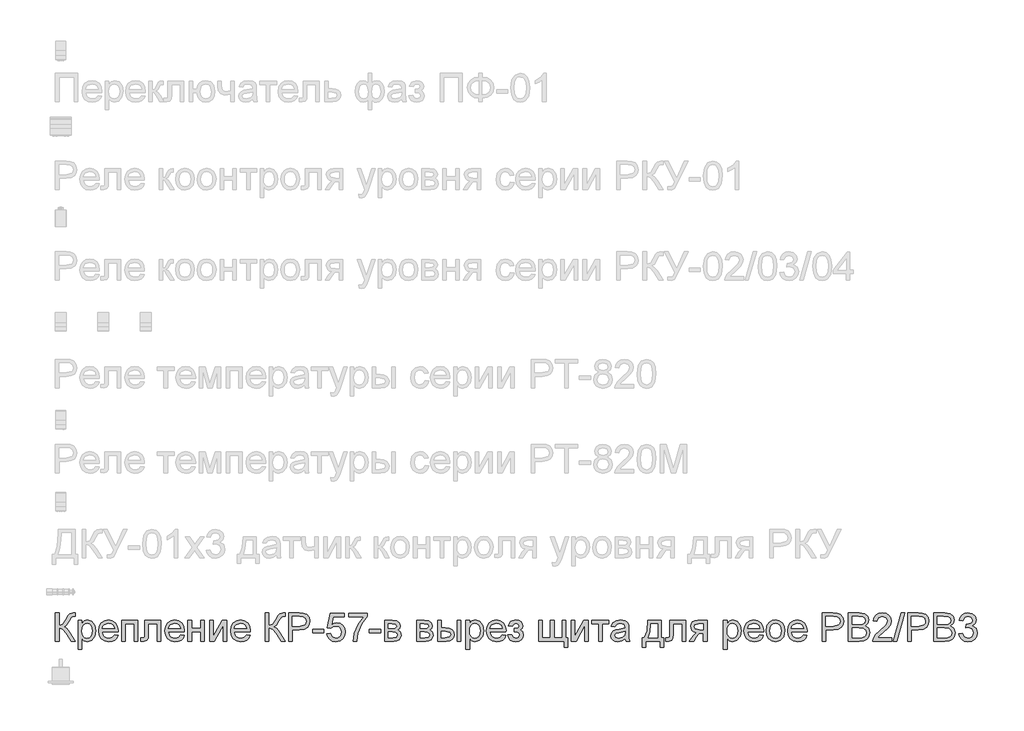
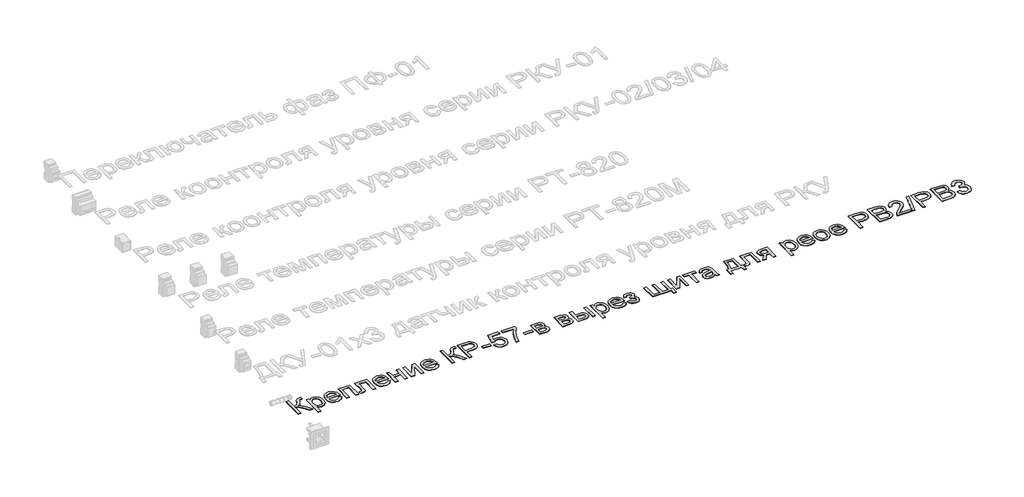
# One storey, part 3 of 34: 1 proxy.
"""IFC4 building model written with IfcOpenShell, lengths in millimetres."""

from ifc_helpers import new_model, si_unit, frame, origin, place, context, project, spatial, polyline, outline, extrude, element, save

model = new_model("IFC4")

# Units and contexts
model_context = context("Model", 3, world=origin())
ifc_project = project(units=[si_unit("LENGTHUNIT", "METRE", prefix="MILLI")], contexts=[model_context])

# Site, building, storey
site = spatial("IfcSite", under=ifc_project)
building = spatial("IfcBuilding", under=site)
storey = spatial("IfcBuildingStorey", under=building, Name="Этаж 01", Elevation=0.0)

# Proxy
placement = place(None, origin())
element("IfcBuildingElementProxy", 1, Name="Надпись на модели 1", ObjectType="Надпись на модели 1", at=placement, inside=storey, context=model_context, shape_type="SweptSolid", body=[
    extrude(outline(polyline([(-19039.0125911, 7591.6915941), (-19026.4555523, 7591.6915941), (-19026.4555523, 7547.7419585), (-19012.4147228, 7551.0651591), (-19002.616799, 7567.8773663), (-18995.6883548, 7581.9181958), (-18987.8402055, 7588.8711655), (-18976.6198047, 7591.6915941), (-18968.379248, 7591.5444413), (-18968.379248, 7578.9874026), (-18971.1506257, 7579.060979), (-18973.9220034, 7579.1345554), (-18983.7321899, 7576.117923), (-18991.1879317, 7563.1930022), (-19000.0784133, 7547.4476529), (-19008.7481656, 7542.248254), (-18999.054475, 7536.5706085), (-18989.4956745, 7524.737071), (-18968.379248, 7491.235284), (-18982.947375, 7491.235284), (-19000.8019145, 7519.5376722), (-19013.371216, 7534.3142656), (-19026.4555523, 7538.3241794), (-19026.4555523, 7491.235284), (-19039.0125911, 7491.235284), (-19039.0125911, 7591.6915941)])), frame((0.0, 0.0, 40.0), z_axis=(0.0, 0.0, 1.0), x_axis=(1.0, 0.0, 0.0)), (0.0, 0.0, 1.0), 2.0),
    extrude(outline(polyline([(-18958.9614689, 7462.9819468), (-18958.9614689, 7565.0078868), (-18946.4044302, 7565.0078868), (-18946.4044302, 7552.6961027), (-18937.7224151, 7563.1071631), (-18925.9992422, 7566.5775166), (-18910.0822145, 7561.7214743), (-18899.6834168, 7548.036264), (-18896.1762751, 7528.6856711), (-18900.1371379, 7508.3417968), (-18911.6395816, 7494.4849083), (-18927.5198211, 7489.6656541), (-18938.4459163, 7492.890753), (-18946.4044302, 7501.0454705), (-18946.4044302, 7462.9819468), (-18958.9614689, 7462.9819468)]), holes=[polyline([(-18946.4044302, 7527.5329742), (-18945.0463325, 7516.2757851), (-18940.9720394, 7508.4031104), (-18934.9602344, 7503.7677973), (-18927.7896012, 7502.2226929), (-18920.502472, 7503.8229796), (-18914.3373829, 7508.6238396), (-18910.1343311, 7516.7846886), (-18908.7333139, 7528.4649419), (-18910.1006086, 7539.6608173), (-18914.2024928, 7547.6438566), (-18920.2051007, 7552.4263225), (-18927.2745664, 7554.0204778), (-18934.3716232, 7552.325155), (-18940.6041574, 7547.2391864), (-18944.954362, 7538.9219876), (-18946.4044302, 7527.5329742)])]), frame((0.0, 0.0, 40.0), z_axis=(0.0, 0.0, 1.0), x_axis=(1.0, 0.0, 0.0)), (0.0, 0.0, 1.0), 2.0),
    extrude(outline(polyline([(-18830.3989743, 7513.2101018), (-18818.0871902, 7511.640472), (-18822.523234, 7502.3637143), (-18829.6018967, 7495.4291387), (-18839.1637629, 7491.1065253), (-18851.049417, 7489.6656541), (-18865.7830909, 7492.1519233), (-18877.1199877, 7499.6107308), (-18884.3488689, 7511.5576985), (-18886.758496, 7527.5084487), (-18884.3243435, 7543.9956935), (-18877.0218859, 7556.3258717), (-18865.8382732, 7564.0146054), (-18851.7606555, 7566.5775166), (-18838.1214306, 7564.0207367), (-18827.2229265, 7556.3503971), (-18820.0768187, 7544.0447444), (-18817.6947828, 7527.5820251), (-18817.7683592, 7524.1975108), (-18874.2014572, 7524.1975108), (-18872.0278878, 7514.7981258), (-18866.9787074, 7507.8880756), (-18859.6915782, 7503.6390386), (-18850.8041623, 7502.2226929), (-18838.4923782, 7504.8469178), (-18830.3989743, 7513.2101018)]), holes=[polyline([(-18874.2014572, 7536.7545495), (-18830.2518215, 7536.7545495), (-18835.2795421, 7548.1343659), (-18842.6003939, 7552.5489499), (-18851.8097065, 7554.0204778), (-18867.273013, 7549.323851), (-18872.1382524, 7543.8332123), (-18874.2014572, 7536.7545495)])]), frame((0.0, 0.0, 40.0), z_axis=(0.0, 0.0, 1.0), x_axis=(1.0, 0.0, 0.0)), (0.0, 0.0, 1.0), 2.0),
    extrude(outline(polyline([(-18805.137744, 7565.0078868), (-18748.6310696, 7565.0078868), (-18748.6310696, 7491.235284), (-18761.1881083, 7491.235284), (-18761.1881083, 7552.450848), (-18792.5807052, 7552.450848), (-18792.5807052, 7491.235284), (-18805.137744, 7491.235284), (-18805.137744, 7565.0078868)])), frame((0.0, 0.0, 40.0), z_axis=(0.0, 0.0, 1.0), x_axis=(1.0, 0.0, 0.0)), (0.0, 0.0, 1.0), 2.0),
    extrude(outline(polyline([(-18723.516992, 7565.0078868), (-18667.0103176, 7565.0078868), (-18667.0103176, 7491.3088604), (-18679.5673563, 7491.3088604), (-18679.5673563, 7552.450848), (-18710.9599532, 7552.450848), (-18710.9599532, 7517.2568038), (-18711.8060818, 7501.0209451), (-18716.4536577, 7494.1660772), (-18727.4410666, 7491.235284), (-18737.6436606, 7491.8729461), (-18737.6436606, 7503.7923228), (-18732.0273288, 7503.7923228), (-18726.3496834, 7504.564875), (-18724.0810777, 7507.0174216), (-18723.516992, 7517.9680423), (-18723.516992, 7565.0078868)])), frame((0.0, 0.0, 40.0), z_axis=(0.0, 0.0, 1.0), x_axis=(1.0, 0.0, 0.0)), (0.0, 0.0, 1.0), 2.0),
    extrude(outline(polyline([(-18596.5241273, 7513.2101018), (-18584.2123432, 7511.640472), (-18588.6483869, 7502.3637143), (-18595.7270496, 7495.4291387), (-18605.2889158, 7491.1065253), (-18617.1745699, 7489.6656541), (-18631.9082438, 7492.1519233), (-18643.2451407, 7499.6107308), (-18650.4740219, 7511.5576985), (-18652.8836489, 7527.5084487), (-18650.4494964, 7543.9956935), (-18643.1470388, 7556.3258717), (-18631.9634261, 7564.0146054), (-18617.8858085, 7566.5775166), (-18604.2465835, 7564.0207367), (-18593.3480794, 7556.3503971), (-18586.2019716, 7544.0447444), (-18583.8199357, 7527.5820251), (-18583.8935121, 7524.1975108), (-18640.3266102, 7524.1975108), (-18638.1530407, 7514.7981258), (-18633.1038603, 7507.8880756), (-18625.8167311, 7503.6390386), (-18616.9293153, 7502.2226929), (-18604.6175312, 7504.8469178), (-18596.5241273, 7513.2101018)]), holes=[polyline([(-18640.3266102, 7536.7545495), (-18596.3769745, 7536.7545495), (-18601.4046951, 7548.1343659), (-18608.7255468, 7552.5489499), (-18617.9348594, 7554.0204778), (-18633.3981659, 7549.323851), (-18638.2634053, 7543.8332123), (-18640.3266102, 7536.7545495)])]), frame((0.0, 0.0, 40.0), z_axis=(0.0, 0.0, 1.0), x_axis=(1.0, 0.0, 0.0)), (0.0, 0.0, 1.0), 2.0),
    extrude(outline(polyline([(-18571.2628969, 7565.0078868), (-18558.7058582, 7565.0078868), (-18558.7058582, 7536.7545495), (-18525.7436314, 7536.7545495), (-18525.7436314, 7565.0078868), (-18513.1865926, 7565.0078868), (-18513.1865926, 7491.235284), (-18525.7436314, 7491.235284), (-18525.7436314, 7524.1975108), (-18558.7058582, 7524.1975108), (-18558.7058582, 7491.235284), (-18571.2628969, 7491.235284), (-18571.2628969, 7565.0078868)])), frame((0.0, 0.0, 40.0), z_axis=(0.0, 0.0, 1.0), x_axis=(1.0, 0.0, 0.0)), (0.0, 0.0, 1.0), 2.0),
    extrude(outline(polyline([(-18494.3510345, 7565.0078868), (-18481.7939957, 7565.0078868), (-18481.7939957, 7508.746467), (-18450.9409591, 7565.0078868), (-18434.7051003, 7565.0078868), (-18434.7051003, 7491.235284), (-18447.2621391, 7491.235284), (-18447.2621391, 7547.1533473), (-18477.918972, 7491.235284), (-18494.3510345, 7491.235284), (-18494.3510345, 7565.0078868)])), frame((0.0, 0.0, 40.0), z_axis=(0.0, 0.0, 1.0), x_axis=(1.0, 0.0, 0.0)), (0.0, 0.0, 1.0), 2.0),
    extrude(outline(polyline([(-18364.2189101, 7513.2101018), (-18351.907126, 7511.640472), (-18356.3431697, 7502.3637143), (-18363.4218324, 7495.4291387), (-18372.9836986, 7491.1065253), (-18384.8693527, 7489.6656541), (-18399.6030266, 7492.1519233), (-18410.9399234, 7499.6107308), (-18418.1688047, 7511.5576985), (-18420.5784317, 7527.5084487), (-18418.1442792, 7543.9956935), (-18410.8418216, 7556.3258717), (-18399.6582089, 7564.0146054), (-18385.5805912, 7566.5775166), (-18371.9413663, 7564.0207367), (-18361.0428622, 7556.3503971), (-18353.8967544, 7544.0447444), (-18351.5147185, 7527.5820251), (-18351.5882949, 7524.1975108), (-18408.021393, 7524.1975108), (-18405.8478235, 7514.7981258), (-18400.7986431, 7507.8880756), (-18393.5115139, 7503.6390386), (-18384.6240981, 7502.2226929), (-18372.312314, 7504.8469178), (-18364.2189101, 7513.2101018)]), holes=[polyline([(-18408.021393, 7536.7545495), (-18364.0717573, 7536.7545495), (-18369.0994779, 7548.1343659), (-18376.4203296, 7552.5489499), (-18385.6296422, 7554.0204778), (-18401.0929487, 7549.323851), (-18405.9581881, 7543.8332123), (-18408.021393, 7536.7545495)])]), frame((0.0, 0.0, 40.0), z_axis=(0.0, 0.0, 1.0), x_axis=(1.0, 0.0, 0.0)), (0.0, 0.0, 1.0), 2.0),
    extrude(outline(polyline([(-18298.1473037, 7591.6915941), (-18285.590265, 7591.6915941), (-18285.590265, 7547.7419585), (-18271.5494355, 7551.0651591), (-18261.7515117, 7567.8773663), (-18254.8230674, 7581.9181958), (-18246.9749182, 7588.8711655), (-18235.7545173, 7591.6915941), (-18227.5139607, 7591.5444413), (-18227.5139607, 7578.9874026), (-18230.2853383, 7579.060979), (-18233.056716, 7579.1345554), (-18242.8669026, 7576.117923), (-18250.3226444, 7563.1930022), (-18259.2131259, 7547.4476529), (-18267.8828783, 7542.248254), (-18258.1891877, 7536.5706085), (-18248.6303872, 7524.737071), (-18227.5139607, 7491.235284), (-18242.0820877, 7491.235284), (-18259.9366272, 7519.5376722), (-18272.5059287, 7534.3142656), (-18285.590265, 7538.3241794), (-18285.590265, 7491.235284), (-18298.1473037, 7491.235284), (-18298.1473037, 7591.6915941)])), frame((0.0, 0.0, 40.0), z_axis=(0.0, 0.0, 1.0), x_axis=(1.0, 0.0, 0.0)), (0.0, 0.0, 1.0), 2.0),
    extrude(outline(polyline([(-18216.5265517, 7491.235284), (-18216.5265517, 7591.6915941), (-18179.2968938, 7591.6915941), (-18164.2873084, 7590.735101), (-18152.0858889, 7586.0384742), (-18144.176426, 7576.3263895), (-18141.1843191, 7562.6289165), (-18143.2046044, 7550.7892476), (-18149.2654603, 7540.9238788), (-18160.5992914, 7534.2652147), (-18178.4385025, 7532.04566), (-18203.969513, 7532.04566), (-18203.969513, 7491.235284), (-18216.5265517, 7491.235284)]), holes=[polyline([(-18203.969513, 7544.6026988), (-18177.7027385, 7544.6026988), (-18159.2105369, 7549.2134864), (-18155.1086526, 7554.7623732), (-18153.7413579, 7562.1874581), (-18156.9664567, 7572.5862559), (-18165.4400053, 7578.2761641), (-18177.9970441, 7579.1345554), (-18203.969513, 7579.1345554), (-18203.969513, 7544.6026988)])]), frame((0.0, 0.0, 40.0), z_axis=(0.0, 0.0, 1.0), x_axis=(1.0, 0.0, 0.0)), (0.0, 0.0, 1.0), 2.0),
    extrude(outline(polyline([(-18131.76654, 7521.0582511), (-18131.76654, 7533.6152898), (-18092.5257939, 7533.6152898), (-18092.5257939, 7521.0582511), (-18131.76654, 7521.0582511)])), frame((0.0, 0.0, 40.0), z_axis=(0.0, 0.0, 1.0), x_axis=(1.0, 0.0, 0.0)), (0.0, 0.0, 1.0), 2.0),
    extrude(outline(polyline([(-18081.538385, 7517.9189914), (-18068.9813462, 7519.4886212), (-18062.6537759, 7506.5514377), (-18049.5326514, 7502.2226929), (-18040.5318052, 7503.7279434), (-18033.787302, 7508.2436949), (-18029.5750531, 7515.2487812), (-18028.1709702, 7524.2220362), (-18033.4316827, 7539.1335198), (-18040.0382302, 7543.235404), (-18049.3364477, 7544.6026988), (-18060.3606448, 7542.4199323), (-18067.4117163, 7536.7545495), (-18079.9687551, 7538.3241794), (-18068.9813462, 7590.1219643), (-18020.322821, 7590.1219643), (-18020.322821, 7577.5649255), (-18058.8278031, 7577.5649255), (-18064.1988803, 7549.9001995), (-18055.2286909, 7555.344853), (-18045.829306, 7557.1597375), (-18034.096936, 7554.909526), (-18024.3572602, 7548.1588914), (-18017.7997636, 7537.8704582), (-18015.6139314, 7525.0068512), (-18017.5821001, 7512.4498124), (-18023.4866061, 7501.7076581), (-18034.7928461, 7492.6761551), (-18049.5817023, 7489.6656541), (-18061.9149462, 7491.6001003), (-18071.7404612, 7497.4034388), (-18078.4757674, 7506.4012192), (-18081.538385, 7517.9189914)])), frame((0.0, 0.0, 40.0), z_axis=(0.0, 0.0, 1.0), x_axis=(1.0, 0.0, 0.0)), (0.0, 0.0, 1.0), 2.0),
    extrude(outline(polyline([(-18004.6265225, 7577.5649255), (-18004.6265225, 7590.1219643), (-17938.702069, 7590.1219643), (-17938.702069, 7579.9684212), (-17957.4027371, 7552.9536201), (-17971.7133467, 7518.532128), (-17976.3731853, 7491.235284), (-17988.930224, 7491.235284), (-17983.9392916, 7519.5621976), (-17970.2418187, 7551.5801939), (-17951.2591077, 7577.5649255), (-18004.6265225, 7577.5649255)])), frame((0.0, 0.0, 40.0), z_axis=(0.0, 0.0, 1.0), x_axis=(1.0, 0.0, 0.0)), (0.0, 0.0, 1.0), 2.0),
    extrude(outline(polyline([(-17930.8539197, 7521.0582511), (-17930.8539197, 7533.6152898), (-17891.6131736, 7533.6152898), (-17891.6131736, 7521.0582511), (-17930.8539197, 7521.0582511)])), frame((0.0, 0.0, 40.0), z_axis=(0.0, 0.0, 1.0), x_axis=(1.0, 0.0, 0.0)), (0.0, 0.0, 1.0), 2.0),
    extrude(outline(polyline([(-17877.486505, 7565.0078868), (-17849.8217789, 7565.0078868), (-17834.652778, 7563.3278923), (-17826.1179157, 7557.1720003), (-17822.5494604, 7546.4421087), (-17824.7077014, 7537.7233055), (-17831.20695, 7531.5060997), (-17822.7701896, 7524.7002828), (-17819.4102007, 7512.8667453), (-17821.5377849, 7503.2956821), (-17826.5961623, 7496.5573102), (-17834.6037271, 7492.5657905), (-17845.5788733, 7491.235284), (-17877.486505, 7491.235284), (-17877.486505, 7565.0078868)]), holes=[polyline([(-17864.9294662, 7536.7545495), (-17852.5195802, 7536.7545495), (-17842.280198, 7537.3922117), (-17837.3015284, 7539.9428602), (-17835.1064991, 7544.5536478), (-17838.9569973, 7550.7095399), (-17852.1271728, 7552.450848), (-17864.9294662, 7552.450848), (-17864.9294662, 7536.7545495)]), polyline([(-17864.9294662, 7503.7923228), (-17849.5274733, 7503.7923228), (-17835.8667886, 7506.0609284), (-17831.9672394, 7513.8968149), (-17834.1132177, 7519.9423424), (-17839.7050241, 7523.4617468), (-17850.7537467, 7524.1975108), (-17864.9294662, 7524.1975108), (-17864.9294662, 7503.7923228)])]), frame((0.0, 0.0, 40.0), z_axis=(0.0, 0.0, 1.0), x_axis=(1.0, 0.0, 0.0)), (0.0, 0.0, 1.0), 2.0),
    extrude(outline(polyline([(-17764.4731561, 7565.0078868), (-17736.80843, 7565.0078868), (-17721.6394291, 7563.3278923), (-17713.1045668, 7557.1720003), (-17709.5361114, 7546.4421087), (-17711.6943525, 7537.7233055), (-17718.1936011, 7531.5060997), (-17709.7568406, 7524.7002828), (-17706.3968517, 7512.8667453), (-17708.524436, 7503.2956821), (-17713.5828134, 7496.5573102), (-17721.5903781, 7492.5657905), (-17732.5655243, 7491.235284), (-17764.4731561, 7491.235284), (-17764.4731561, 7565.0078868)]), holes=[polyline([(-17751.9161173, 7536.7545495), (-17739.5062313, 7536.7545495), (-17729.2668491, 7537.3922117), (-17724.2881794, 7539.9428602), (-17722.0931502, 7544.5536478), (-17725.9436484, 7550.7095399), (-17739.1138239, 7552.450848), (-17751.9161173, 7552.450848), (-17751.9161173, 7536.7545495)]), polyline([(-17751.9161173, 7503.7923228), (-17736.5141244, 7503.7923228), (-17722.8534397, 7506.0609284), (-17718.9538905, 7513.8968149), (-17721.0998688, 7519.9423424), (-17726.6916751, 7523.4617468), (-17737.7403977, 7524.1975108), (-17751.9161173, 7524.1975108), (-17751.9161173, 7503.7923228)])]), frame((0.0, 0.0, 40.0), z_axis=(0.0, 0.0, 1.0), x_axis=(1.0, 0.0, 0.0)), (0.0, 0.0, 1.0), 2.0),
    extrude(outline(polyline([(-17621.6368401, 7565.0078868), (-17609.0798013, 7565.0078868), (-17609.0798013, 7491.235284), (-17621.6368401, 7491.235284), (-17621.6368401, 7565.0078868)])), frame((0.0, 0.0, 40.0), z_axis=(0.0, 0.0, 1.0), x_axis=(1.0, 0.0, 0.0)), (0.0, 0.0, 1.0), 2.0),
    extrude(outline(polyline([(-17690.7005533, 7565.0078868), (-17678.1435145, 7565.0078868), (-17678.1435145, 7538.3241794), (-17662.6188943, 7538.3241794), (-17649.2003985, 7536.7514838), (-17639.2583876, 7532.0333973), (-17633.1055613, 7524.5500643), (-17631.0546191, 7514.6816298), (-17632.7744675, 7505.6961121), (-17637.9340124, 7498.1146773), (-17646.8704792, 7492.9551323), (-17659.921093, 7491.235284), (-17690.7005533, 7491.235284), (-17690.7005533, 7565.0078868)]), holes=[polyline([(-17678.1435145, 7503.7923228), (-17665.2431192, 7503.7923228), (-17648.5903276, 7506.4288104), (-17643.6116579, 7514.6571044), (-17647.3027406, 7522.3826263), (-17663.599913, 7525.7671406), (-17678.1435145, 7525.7671406), (-17678.1435145, 7503.7923228)])]), frame((0.0, 0.0, 40.0), z_axis=(0.0, 0.0, 1.0), x_axis=(1.0, 0.0, 0.0)), (0.0, 0.0, 1.0), 2.0),
    extrude(outline(polyline([(-17590.2442431, 7462.9819468), (-17590.2442431, 7565.0078868), (-17577.6872044, 7565.0078868), (-17577.6872044, 7552.6961027), (-17569.0051893, 7563.1071631), (-17557.2820164, 7566.5775166), (-17541.3649887, 7561.7214743), (-17530.966191, 7548.036264), (-17527.4590493, 7528.6856711), (-17531.4199121, 7508.3417968), (-17542.9223558, 7494.4849083), (-17558.8025953, 7489.6656541), (-17569.7286905, 7492.890753), (-17577.6872044, 7501.0454705), (-17577.6872044, 7462.9819468), (-17590.2442431, 7462.9819468)]), holes=[polyline([(-17577.6872044, 7527.5329742), (-17576.3291067, 7516.2757851), (-17572.2548136, 7508.4031104), (-17566.2430086, 7503.7677973), (-17559.0723754, 7502.2226929), (-17551.7852462, 7503.8229796), (-17545.6201571, 7508.6238396), (-17541.4171053, 7516.7846886), (-17540.0160881, 7528.4649419), (-17541.3833828, 7539.6608173), (-17545.4852671, 7547.6438566), (-17551.4878749, 7552.4263225), (-17558.5573406, 7554.0204778), (-17565.6543974, 7552.325155), (-17571.8869316, 7547.2391864), (-17576.2371362, 7538.9219876), (-17577.6872044, 7527.5329742)])]), frame((0.0, 0.0, 40.0), z_axis=(0.0, 0.0, 1.0), x_axis=(1.0, 0.0, 0.0)), (0.0, 0.0, 1.0), 2.0),
    extrude(outline(polyline([(-17461.6817486, 7513.2101018), (-17449.3699645, 7511.640472), (-17453.8060082, 7502.3637143), (-17460.8846709, 7495.4291387), (-17470.4465371, 7491.1065253), (-17482.3321912, 7489.6656541), (-17497.0658651, 7492.1519233), (-17508.4027619, 7499.6107308), (-17515.6316432, 7511.5576985), (-17518.0412702, 7527.5084487), (-17515.6071177, 7543.9956935), (-17508.3046601, 7556.3258717), (-17497.1210474, 7564.0146054), (-17483.0434297, 7566.5775166), (-17469.4042048, 7564.0207367), (-17458.5057007, 7556.3503971), (-17451.3595929, 7544.0447444), (-17448.977557, 7527.5820251), (-17449.0511334, 7524.1975108), (-17505.4842314, 7524.1975108), (-17503.310662, 7514.7981258), (-17498.2614816, 7507.8880756), (-17490.9743524, 7503.6390386), (-17482.0869366, 7502.2226929), (-17469.7751525, 7504.8469178), (-17461.6817486, 7513.2101018)]), holes=[polyline([(-17505.4842314, 7536.7545495), (-17461.5345958, 7536.7545495), (-17466.5623164, 7548.1343659), (-17473.8831681, 7552.5489499), (-17483.0924807, 7554.0204778), (-17498.5557872, 7549.323851), (-17503.4210266, 7543.8332123), (-17505.4842314, 7536.7545495)])]), frame((0.0, 0.0, 40.0), z_axis=(0.0, 0.0, 1.0), x_axis=(1.0, 0.0, 0.0)), (0.0, 0.0, 1.0), 2.0),
    extrude(outline(polyline([(-17419.1545899, 7524.1975108), (-17419.1545899, 7536.7545495), (-17409.2463015, 7537.2450589), (-17404.2431064, 7539.857021), (-17401.8886616, 7545.3139373), (-17405.040184, 7551.6537703), (-17413.1703761, 7554.0204778), (-17421.5703483, 7551.6660331), (-17427.0027391, 7544.6026988), (-17441.1294078, 7546.1723286), (-17431.6871032, 7561.4762196), (-17414.4457004, 7566.5775166), (-17403.9488008, 7565.0232152), (-17396.0025497, 7560.3603109), (-17390.9993546, 7553.5391656), (-17389.3316228, 7545.510141), (-17391.7044617, 7537.7110427), (-17398.8229783, 7531.677778), (-17390.521108, 7523.8541542), (-17387.761993, 7512.5969652), (-17389.5124982, 7503.3539301), (-17394.7640136, 7496.0300127), (-17403.1609202, 7491.2567438), (-17414.3475985, 7489.6656541), (-17425.2890222, 7491.1371821), (-17433.6614033, 7495.5517661), (-17439.4647417, 7502.909406), (-17442.6990376, 7513.2101018), (-17428.572369, 7514.7797317), (-17422.9069863, 7505.5091054), (-17413.1458507, 7502.2226929), (-17403.9733262, 7505.3742153), (-17400.3190318, 7513.430831), (-17402.5876374, 7520.0281815), (-17407.4191543, 7523.5598486), (-17416.7020433, 7524.2710872), (-17419.1545899, 7524.1975108)])), frame((0.0, 0.0, 40.0), z_axis=(0.0, 0.0, 1.0), x_axis=(1.0, 0.0, 0.0)), (0.0, 0.0, 1.0), 2.0),
    extrude(outline(polyline([(-17332.8249484, 7565.0078868), (-17320.2679096, 7565.0078868), (-17320.2679096, 7503.7923228), (-17292.0145724, 7503.7923228), (-17292.0145724, 7565.0078868), (-17279.4575336, 7565.0078868), (-17279.4575336, 7503.7923228), (-17251.2041964, 7503.7923228), (-17251.2041964, 7565.0078868), (-17238.6471576, 7565.0078868), (-17238.6471576, 7503.7923228), (-17230.7990084, 7503.7923228), (-17230.7990084, 7470.830096), (-17243.3560472, 7470.830096), (-17243.3560472, 7491.235284), (-17332.8249484, 7491.235284), (-17332.8249484, 7565.0078868)])), frame((0.0, 0.0, 40.0), z_axis=(0.0, 0.0, 1.0), x_axis=(1.0, 0.0, 0.0)), (0.0, 0.0, 1.0), 2.0),
    extrude(outline(polyline([(-17218.2419696, 7565.0078868), (-17205.6849308, 7565.0078868), (-17205.6849308, 7508.746467), (-17174.8318942, 7565.0078868), (-17158.5960355, 7565.0078868), (-17158.5960355, 7491.235284), (-17171.1530742, 7491.235284), (-17171.1530742, 7547.1533473), (-17201.8099072, 7491.235284), (-17218.2419696, 7491.235284), (-17218.2419696, 7565.0078868)])), frame((0.0, 0.0, 40.0), z_axis=(0.0, 0.0, 1.0), x_axis=(1.0, 0.0, 0.0)), (0.0, 0.0, 1.0), 2.0),
    extrude(outline(polyline([(-17146.0389967, 7565.0078868), (-17086.3930625, 7565.0078868), (-17086.3930625, 7552.450848), (-17109.9375102, 7552.450848), (-17109.9375102, 7491.235284), (-17122.494549, 7491.235284), (-17122.494549, 7552.450848), (-17146.0389967, 7552.450848), (-17146.0389967, 7565.0078868)])), frame((0.0, 0.0, 40.0), z_axis=(0.0, 0.0, 1.0), x_axis=(1.0, 0.0, 0.0)), (0.0, 0.0, 1.0), 2.0),
    extrude(outline(polyline([(-17028.3167582, 7500.6530631), (-17040.4936523, 7492.1427262), (-17053.9458706, 7489.6656541), (-17064.4397045, 7491.1555762), (-17072.1805548, 7495.6253425), (-17076.9538237, 7502.4127653), (-17078.5449133, 7510.8556571), (-17076.1414176, 7520.7884709), (-17069.82611, 7527.998958), (-17061.0337303, 7532.1192364), (-17050.1689488, 7534.0076973), (-17028.3903346, 7538.3241794), (-17028.3167582, 7541.1200825), (-17031.774849, 7550.3907088), (-17045.6562629, 7554.0204778), (-17058.3604545, 7551.6047194), (-17064.4182447, 7543.0330689), (-17076.9752835, 7544.6026988), (-17071.5428927, 7556.8654319), (-17060.6045347, 7564.0513936), (-17044.0375822, 7566.5775166), (-17028.8195303, 7564.3456992), (-17020.2233543, 7558.7416301), (-17016.3728561, 7550.2190306), (-17015.7597195, 7539.2316216), (-17015.7597195, 7523.6088996), (-17015.1220573, 7501.7934973), (-17012.6204598, 7491.235284), (-17025.1774985, 7491.235284), (-17028.3167582, 7500.6530631)]), holes=[polyline([(-17028.3167582, 7525.7671406), (-17048.5747934, 7521.9166424), (-17059.3782614, 7519.8810287), (-17064.2710919, 7516.5700907), (-17065.9878745, 7511.7385739), (-17062.2477409, 7504.9450197), (-17051.2725947, 7502.2226929), (-17038.5684032, 7505.2270625), (-17030.3768974, 7512.4988633), (-17028.3903346, 7522.210948), (-17028.3167582, 7525.7671406)])]), frame((0.0, 0.0, 40.0), z_axis=(0.0, 0.0, 1.0), x_axis=(1.0, 0.0, 0.0)), (0.0, 0.0, 1.0), 2.0),
    extrude(outline(polyline([(-16948.2656361, 7565.0078868), (-16901.1767407, 7565.0078868), (-16901.1767407, 7503.7923228), (-16891.7589616, 7503.7923228), (-16891.7589616, 7470.830096), (-16904.3160004, 7470.830096), (-16904.3160004, 7491.235284), (-16956.1137853, 7491.235284), (-16956.1137853, 7470.830096), (-16968.6708241, 7470.830096), (-16968.6708241, 7503.7923228), (-16960.8226749, 7503.7923228), (-16951.1228529, 7527.7414406), (-16948.2656361, 7565.0078868)]), holes=[polyline([(-16937.2782272, 7552.450848), (-16940.2212831, 7523.8418915), (-16946.6960062, 7503.7923228), (-16913.7337795, 7503.7923228), (-16913.7337795, 7552.450848), (-16937.2782272, 7552.450848)])]), frame((0.0, 0.0, 40.0), z_axis=(0.0, 0.0, 1.0), x_axis=(1.0, 0.0, 0.0)), (0.0, 0.0, 1.0), 2.0),
    extrude(outline(polyline([(-16871.3537736, 7565.0078868), (-16814.8470992, 7565.0078868), (-16814.8470992, 7491.3088604), (-16827.4041379, 7491.3088604), (-16827.4041379, 7552.450848), (-16858.7967349, 7552.450848), (-16858.7967349, 7517.2568038), (-16859.6428635, 7501.0209451), (-16864.2904393, 7494.1660772), (-16875.2778482, 7491.235284), (-16885.4804422, 7491.8729461), (-16885.4804422, 7503.7923228), (-16879.8641105, 7503.7923228), (-16874.186465, 7504.564875), (-16871.9178594, 7507.0174216), (-16871.3537736, 7517.9680423), (-16871.3537736, 7565.0078868)])), frame((0.0, 0.0, 40.0), z_axis=(0.0, 0.0, 1.0), x_axis=(1.0, 0.0, 0.0)), (0.0, 0.0, 1.0), 2.0),
    extrude(outline(polyline([(-16739.5048666, 7565.0078868), (-16739.5048666, 7491.235284), (-16752.0619053, 7491.235284), (-16752.0619053, 7519.4886212), (-16758.9045104, 7519.4886212), (-16768.2241876, 7517.8944659), (-16776.9797791, 7507.1768371), (-16786.9861694, 7491.235284), (-16801.5052455, 7491.235284), (-16788.8991558, 7511.3952173), (-16778.2060525, 7521.843066), (-16786.7899657, 7524.4734223), (-16792.8232304, 7529.470486), (-16797.5811709, 7543.6952565), (-16795.9563587, 7552.2914325), (-16791.0819223, 7559.0972494), (-16783.1295398, 7563.5302274), (-16772.2708896, 7565.0078868), (-16739.5048666, 7565.0078868)]), holes=[polyline([(-16752.0619053, 7552.450848), (-16768.6165951, 7552.450848), (-16782.0197625, 7549.5445802), (-16785.0241321, 7542.7387633), (-16780.5972854, 7534.6330967), (-16764.9132497, 7532.04566), (-16752.0619053, 7532.04566), (-16752.0619053, 7552.450848)])]), frame((0.0, 0.0, 40.0), z_axis=(0.0, 0.0, 1.0), x_axis=(1.0, 0.0, 0.0)), (0.0, 0.0, 1.0), 2.0),
    extrude(outline(polyline([(-16681.4285623, 7462.9819468), (-16681.4285623, 7565.0078868), (-16668.8715235, 7565.0078868), (-16668.8715235, 7552.6961027), (-16660.1895084, 7563.1071631), (-16648.4663355, 7566.5775166), (-16632.5493078, 7561.7214743), (-16622.1505101, 7548.036264), (-16618.6433684, 7528.6856711), (-16622.6042312, 7508.3417968), (-16634.1066749, 7494.4849083), (-16649.9869144, 7489.6656541), (-16660.9130097, 7492.890753), (-16668.8715235, 7501.0454705), (-16668.8715235, 7462.9819468), (-16681.4285623, 7462.9819468)]), holes=[polyline([(-16668.8715235, 7527.5329742), (-16667.5134258, 7516.2757851), (-16663.4391327, 7508.4031104), (-16657.4273278, 7503.7677973), (-16650.2566945, 7502.2226929), (-16642.9695653, 7503.8229796), (-16636.8044762, 7508.6238396), (-16632.6014244, 7516.7846886), (-16631.2004072, 7528.4649419), (-16632.5677019, 7539.6608173), (-16636.6695862, 7547.6438566), (-16642.6721941, 7552.4263225), (-16649.7416597, 7554.0204778), (-16656.8387166, 7552.325155), (-16663.0712507, 7547.2391864), (-16667.4214553, 7538.9219876), (-16668.8715235, 7527.5329742)])]), frame((0.0, 0.0, 40.0), z_axis=(0.0, 0.0, 1.0), x_axis=(1.0, 0.0, 0.0)), (0.0, 0.0, 1.0), 2.0),
    extrude(outline(polyline([(-16552.8660677, 7513.2101018), (-16540.5542836, 7511.640472), (-16544.9903273, 7502.3637143), (-16552.06899, 7495.4291387), (-16561.6308562, 7491.1065253), (-16573.5165103, 7489.6656541), (-16588.2501842, 7492.1519233), (-16599.5870811, 7499.6107308), (-16606.8159623, 7511.5576985), (-16609.2255893, 7527.5084487), (-16606.7914368, 7543.9956935), (-16599.4889792, 7556.3258717), (-16588.3053665, 7564.0146054), (-16574.2277489, 7566.5775166), (-16560.5885239, 7564.0207367), (-16549.6900198, 7556.3503971), (-16542.543912, 7544.0447444), (-16540.1618761, 7527.5820251), (-16540.2354525, 7524.1975108), (-16596.6685506, 7524.1975108), (-16594.4949811, 7514.7981258), (-16589.4458007, 7507.8880756), (-16582.1586715, 7503.6390386), (-16573.2712557, 7502.2226929), (-16560.9594716, 7504.8469178), (-16552.8660677, 7513.2101018)]), holes=[polyline([(-16596.6685506, 7536.7545495), (-16552.7189149, 7536.7545495), (-16557.7466355, 7548.1343659), (-16565.0674872, 7552.5489499), (-16574.2767998, 7554.0204778), (-16589.7401063, 7549.323851), (-16594.6053457, 7543.8332123), (-16596.6685506, 7536.7545495)])]), frame((0.0, 0.0, 40.0), z_axis=(0.0, 0.0, 1.0), x_axis=(1.0, 0.0, 0.0)), (0.0, 0.0, 1.0), 2.0),
    extrude(outline(polyline([(-16530.744097, 7528.1215854), (-16528.0279016, 7545.9086798), (-16519.8793154, 7558.4105363), (-16509.8116115, 7564.5357715), (-16497.7573448, 7566.5775166), (-16484.5657096, 7564.0912475), (-16474.0289561, 7556.63244), (-16467.1219716, 7544.7897054), (-16464.8196435, 7529.151655), (-16468.8908709, 7506.8089551), (-16480.7489339, 7494.1660772), (-16497.7573448, 7489.6656541), (-16511.1083955, 7492.1427262), (-16521.6328863, 7499.5739426), (-16528.4662943, 7511.6649975), (-16530.744097, 7528.1215854)]), holes=[polyline([(-16518.1870583, 7528.1461108), (-16516.7339244, 7516.7816229), (-16512.3745227, 7508.6851533), (-16505.8139605, 7503.838308), (-16497.7573448, 7502.2226929), (-16489.7375173, 7503.8475051), (-16483.1892178, 7508.7219415), (-16478.8298161, 7516.92571), (-16477.3766823, 7528.5385183), (-16478.8390132, 7539.5719125), (-16483.226006, 7547.5580175), (-16489.7835025, 7552.4048627), (-16497.7573448, 7554.0204778), (-16505.8139605, 7552.4109941), (-16512.3745227, 7547.5825429), (-16516.7339244, 7539.5044674), (-16518.1870583, 7528.1461108)])]), frame((0.0, 0.0, 40.0), z_axis=(0.0, 0.0, 1.0), x_axis=(1.0, 0.0, 0.0)), (0.0, 0.0, 1.0), 2.0),
    extrude(outline(polyline([(-16399.0423428, 7513.2101018), (-16386.7305587, 7511.640472), (-16391.1666024, 7502.3637143), (-16398.2452651, 7495.4291387), (-16407.8071313, 7491.1065253), (-16419.6927854, 7489.6656541), (-16434.4264593, 7492.1519233), (-16445.7633561, 7499.6107308), (-16452.9922373, 7511.5576985), (-16455.4018644, 7527.5084487), (-16452.9677119, 7543.9956935), (-16445.6652543, 7556.3258717), (-16434.4816416, 7564.0146054), (-16420.4040239, 7566.5775166), (-16406.764799, 7564.0207367), (-16395.8662949, 7556.3503971), (-16388.7201871, 7544.0447444), (-16386.3381512, 7527.5820251), (-16386.4117276, 7524.1975108), (-16442.8448256, 7524.1975108), (-16440.6712562, 7514.7981258), (-16435.6220758, 7507.8880756), (-16428.3349466, 7503.6390386), (-16419.4475308, 7502.2226929), (-16407.1357466, 7504.8469178), (-16399.0423428, 7513.2101018)]), holes=[polyline([(-16442.8448256, 7536.7545495), (-16398.89519, 7536.7545495), (-16403.9229106, 7548.1343659), (-16411.2437623, 7552.5489499), (-16420.4530749, 7554.0204778), (-16435.9163814, 7549.323851), (-16440.7816208, 7543.8332123), (-16442.8448256, 7536.7545495)])]), frame((0.0, 0.0, 40.0), z_axis=(0.0, 0.0, 1.0), x_axis=(1.0, 0.0, 0.0)), (0.0, 0.0, 1.0), 2.0),
    extrude(outline(polyline([(-16332.9707364, 7491.235284), (-16332.9707364, 7591.6915941), (-16295.7410785, 7591.6915941), (-16280.7314931, 7590.735101), (-16268.5300736, 7586.0384742), (-16260.6206107, 7576.3263895), (-16257.6285038, 7562.6289165), (-16259.6487891, 7550.7892476), (-16265.709645, 7540.9238788), (-16277.0434761, 7534.2652147), (-16294.8826872, 7532.04566), (-16320.4136977, 7532.04566), (-16320.4136977, 7491.235284), (-16332.9707364, 7491.235284)]), holes=[polyline([(-16320.4136977, 7544.6026988), (-16294.1469232, 7544.6026988), (-16275.6547216, 7549.2134864), (-16271.5528373, 7554.7623732), (-16270.1855426, 7562.1874581), (-16273.4106414, 7572.5862559), (-16281.88419, 7578.2761641), (-16294.4412288, 7579.1345554), (-16320.4136977, 7579.1345554), (-16320.4136977, 7544.6026988)])]), frame((0.0, 0.0, 40.0), z_axis=(0.0, 0.0, 1.0), x_axis=(1.0, 0.0, 0.0)), (0.0, 0.0, 1.0), 2.0),
    extrude(outline(polyline([(-16240.3625755, 7491.235284), (-16240.3625755, 7591.6915941), (-16202.0292716, 7591.6915941), (-16183.2550271, 7588.7362754), (-16172.1695163, 7579.6495902), (-16168.1596026, 7566.7982458), (-16171.5318542, 7555.0628102), (-16181.7221855, 7546.1723286), (-16169.3490877, 7536.8036005), (-16165.0203429, 7521.1808784), (-16167.9756616, 7507.6796092), (-16175.2965133, 7498.0656264), (-16186.2226085, 7492.9643294), (-16202.3235772, 7491.235284), (-16240.3625755, 7491.235284)]), holes=[polyline([(-16227.8055367, 7550.8812181), (-16204.8742257, 7550.8812181), (-16191.4833211, 7551.9603387), (-16183.4267054, 7556.6079145), (-16180.7166414, 7564.7871576), (-16183.2427644, 7572.9786633), (-16190.477777, 7577.8224429), (-16206.6155338, 7579.1345554), (-16227.8055367, 7579.1345554), (-16227.8055367, 7550.8812181)]), polyline([(-16227.8055367, 7503.7923228), (-16202.0537971, 7503.7923228), (-16192.7341199, 7504.2828321), (-16184.8491824, 7507.0174216), (-16179.6252581, 7512.5969652), (-16177.5773817, 7521.0582511), (-16179.9808774, 7530.8193867), (-16187.7677129, 7536.6441849), (-16203.2800704, 7538.3241794), (-16227.8055367, 7538.3241794), (-16227.8055367, 7503.7923228)])]), frame((0.0, 0.0, 40.0), z_axis=(0.0, 0.0, 1.0), x_axis=(1.0, 0.0, 0.0)), (0.0, 0.0, 1.0), 2.0),
    extrude(outline(polyline([(-16088.1084804, 7503.7923228), (-16088.1084804, 7491.235284), (-16154.032934, 7491.235284), (-16152.6840333, 7499.8927736), (-16145.0566133, 7513.2223646), (-16129.3357894, 7527.7782288), (-16107.6552771, 7548.6984516), (-16102.235149, 7562.9232221), (-16107.3487088, 7574.4379286), (-16120.7028252, 7579.1345554), (-16134.6210274, 7574.5482932), (-16139.9062654, 7561.8686271), (-16152.4633041, 7563.4382569), (-16149.4190806, 7575.5844941), (-16142.8370586, 7584.4565816), (-16133.0605946, 7589.882841), (-16120.4330451, 7591.6915941), (-16107.7135251, 7589.6805059), (-16097.9554552, 7583.6472412), (-16091.7474465, 7574.6341323), (-16089.6781103, 7563.6835116), (-16091.9099277, 7551.7763977), (-16099.3288813, 7539.4646136), (-16117.3183108, 7522.2599989), (-16131.7638105, 7510.1812067), (-16137.4291933, 7503.7923228), (-16088.1084804, 7503.7923228)])), frame((0.0, 0.0, 40.0), z_axis=(0.0, 0.0, 1.0), x_axis=(1.0, 0.0, 0.0)), (0.0, 0.0, 1.0), 2.0),
    extrude(outline(polyline([(-16081.829961, 7491.235284), (-16053.5766238, 7591.6915941), (-16042.2458584, 7591.6915941), (-16070.4991956, 7491.235284), (-16081.829961, 7491.235284)])), frame((0.0, 0.0, 40.0), z_axis=(0.0, 0.0, 1.0), x_axis=(1.0, 0.0, 0.0)), (0.0, 0.0, 1.0), 2.0),
    extrude(outline(polyline([(-16031.601806, 7491.235284), (-16031.601806, 7591.6915941), (-15994.3721481, 7591.6915941), (-15979.3625627, 7590.735101), (-15967.1611432, 7586.0384742), (-15959.2516803, 7576.3263895), (-15956.2595734, 7562.6289165), (-15958.2798587, 7550.7892476), (-15964.3407145, 7540.9238788), (-15975.6745457, 7534.2652147), (-15993.5137567, 7532.04566), (-16019.0447672, 7532.04566), (-16019.0447672, 7491.235284), (-16031.601806, 7491.235284)]), holes=[polyline([(-16019.0447672, 7544.6026988), (-15992.7779927, 7544.6026988), (-15974.2857911, 7549.2134864), (-15970.1839069, 7554.7623732), (-15968.8166121, 7562.1874581), (-15972.041711, 7572.5862559), (-15980.5152596, 7578.2761641), (-15993.0722983, 7579.1345554), (-16019.0447672, 7579.1345554), (-16019.0447672, 7544.6026988)])]), frame((0.0, 0.0, 40.0), z_axis=(0.0, 0.0, 1.0), x_axis=(1.0, 0.0, 0.0)), (0.0, 0.0, 1.0), 2.0),
    extrude(outline(polyline([(-15938.9936451, 7491.235284), (-15938.9936451, 7591.6915941), (-15900.6603412, 7591.6915941), (-15881.8860967, 7588.7362754), (-15870.8005859, 7579.6495902), (-15866.7906721, 7566.7982458), (-15870.1629238, 7555.0628102), (-15880.353255, 7546.1723286), (-15867.9801573, 7536.8036005), (-15863.6514124, 7521.1808784), (-15866.6067311, 7507.6796092), (-15873.9275828, 7498.0656264), (-15884.8536781, 7492.9643294), (-15900.9546468, 7491.235284), (-15938.9936451, 7491.235284)]), holes=[polyline([(-15926.4366063, 7550.8812181), (-15903.5052953, 7550.8812181), (-15890.1143906, 7551.9603387), (-15882.0577749, 7556.6079145), (-15879.3477109, 7564.7871576), (-15881.8738339, 7572.9786633), (-15889.1088465, 7577.8224429), (-15905.2466034, 7579.1345554), (-15926.4366063, 7579.1345554), (-15926.4366063, 7550.8812181)]), polyline([(-15926.4366063, 7503.7923228), (-15900.6848666, 7503.7923228), (-15891.3651894, 7504.2828321), (-15883.480252, 7507.0174216), (-15878.2563277, 7512.5969652), (-15876.2084512, 7521.0582511), (-15878.6119469, 7530.8193867), (-15886.3987825, 7536.6441849), (-15901.9111399, 7538.3241794), (-15926.4366063, 7538.3241794), (-15926.4366063, 7503.7923228)])]), frame((0.0, 0.0, 40.0), z_axis=(0.0, 0.0, 1.0), x_axis=(1.0, 0.0, 0.0)), (0.0, 0.0, 1.0), 2.0),
    extrude(outline(polyline([(-15851.0943737, 7517.9189914), (-15838.5373349, 7519.4886212), (-15831.6088907, 7506.2693949), (-15818.6471817, 7502.2226929), (-15810.038743, 7503.6145131), (-15803.3923416, 7507.7899738), (-15797.7269589, 7521.5732859), (-15803.3432907, 7534.5595203), (-15817.6171121, 7539.6976055), (-15826.4217545, 7538.3241794), (-15825.0238029, 7550.8812181), (-15823.0127147, 7550.7340653), (-15808.7634188, 7554.3393089), (-15804.017741, 7558.9133084), (-15802.4358484, 7565.4248197), (-15807.0221107, 7575.247269), (-15818.8433854, 7579.1345554), (-15830.811813, 7575.2104808), (-15836.9677051, 7563.4382569), (-15849.5247438, 7565.0078868), (-15845.8275298, 7576.2834699), (-15839.2485734, 7584.7018362), (-15830.2477273, 7589.9441547), (-15819.2848438, 7591.6915941), (-15804.1403684, 7588.2457661), (-15793.5453669, 7578.827987), (-15789.8788097, 7566.1605837), (-15793.3614259, 7554.5845636), (-15803.6621218, 7546.2704305), (-15789.9769115, 7537.6865173), (-15785.1699201, 7521.3525567), (-15787.5734158, 7509.114349), (-15794.7839029, 7498.8872295), (-15805.6670786, 7491.971048), (-15819.0886401, 7489.6656541), (-15831.2287459, 7491.6338228), (-15841.1125089, 7497.5383288), (-15847.9857708, 7506.5698318), (-15851.0943737, 7517.9189914)])), frame((0.0, 0.0, 40.0), z_axis=(0.0, 0.0, 1.0), x_axis=(1.0, 0.0, 0.0)), (0.0, 0.0, 1.0), 2.0),
])

save(model, "model.ifc")
